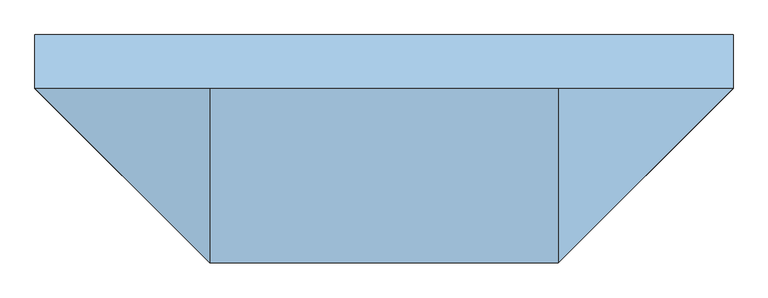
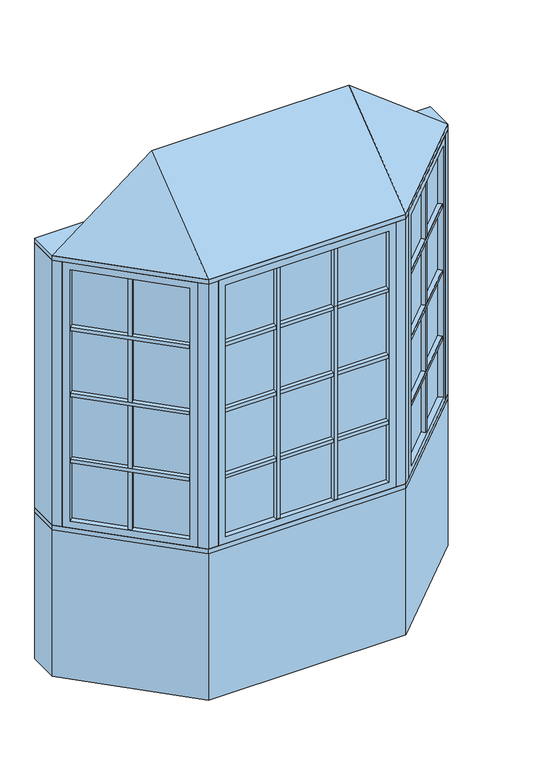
"""IFC4 building model written with IfcOpenShell, lengths in millimetres: window geometry, Pollard_Windows_Tudor Casement Bows and Bays : AML-BAY 45 AFR0514-10-600_GC."""

from ifc_helpers import new_model, si_unit, frame, origin, origin_with_axes, place, context, project, spatial, polyline, outline, extrude, faceted_brep, source, transform, mapped, element, save


def window_0a0b4244(model_context):
    return source(origin(), model_context, "Body", "SolidModel", [
        extrude(outline(polyline([(553.0114193, -506.9608753), (537.4550701, -491.4045261), (915.116171, -113.7434252), (930.6725202, -129.2997743), (553.0114193, -506.9608753)])), frame((0.0, 0.0, 1490.998), z_axis=(0.0, 0.0, 1.0), x_axis=(1.0, 0.0, 0.0)), (0.0, 0.0, 1.0), 18.0),
        extrude(outline(polyline([(533.8629677, -487.8124236), (518.3066185, -472.2560744), (895.9677194, -94.5949735), (911.5240686, -110.1513227), (533.8629677, -487.8124236)])), frame((0.0, 0.0, 1490.998), z_axis=(0.0, 0.0, 1.0), x_axis=(1.0, 0.0, 0.0)), (0.0, 0.0, 1.0), 18.0),
        extrude(outline(polyline([(553.0114193, -506.9608753), (537.4550701, -491.4045261), (915.116171, -113.7434252), (930.6725202, -129.2997743), (553.0114193, -506.9608753)])), frame((0.0, 0.0, 1140.998), z_axis=(0.0, 0.0, 1.0), x_axis=(1.0, 0.0, 0.0)), (0.0, 0.0, 1.0), 18.0),
        extrude(outline(polyline([(533.8629677, -487.8124236), (518.3066185, -472.2560744), (895.9677194, -94.5949735), (911.5240686, -110.1513227), (533.8629677, -487.8124236)])), frame((0.0, 0.0, 1140.998), z_axis=(0.0, 0.0, 1.0), x_axis=(1.0, 0.0, 0.0)), (0.0, 0.0, 1.0), 18.0),
        extrude(outline(polyline([(553.0114193, -506.9608753), (537.4550701, -491.4045261), (915.116171, -113.7434252), (930.6725202, -129.2997743), (553.0114193, -506.9608753)])), frame((0.0, 0.0, 1490.998), z_axis=(0.0, 0.0, 1.0), x_axis=(1.0, 0.0, 0.0)), (0.0, 0.0, 1.0), 18.0),
        extrude(outline(polyline([(533.8629677, -487.8124236), (518.3066185, -472.2560744), (895.9677194, -94.5949735), (911.5240686, -110.1513227), (533.8629677, -487.8124236)])), frame((0.0, 0.0, 1490.998), z_axis=(0.0, 0.0, 1.0), x_axis=(1.0, 0.0, 0.0)), (0.0, 0.0, 1.0), 18.0),
        extrude(outline(polyline([(553.0114193, -506.9608753), (537.4550701, -491.4045261), (915.116171, -113.7434252), (930.6725202, -129.2997743), (553.0114193, -506.9608753)])), frame((0.0, 0.0, 1490.998), z_axis=(0.0, 0.0, 1.0), x_axis=(1.0, 0.0, 0.0)), (0.0, 0.0, 1.0), 18.0),
        extrude(outline(polyline([(533.8629677, -487.8124236), (518.3066185, -472.2560744), (895.9677194, -94.5949735), (911.5240686, -110.1513227), (533.8629677, -487.8124236)])), frame((0.0, 0.0, 1490.998), z_axis=(0.0, 0.0, 1.0), x_axis=(1.0, 0.0, 0.0)), (0.0, 0.0, 1.0), 18.0),
        extrude(outline(polyline([(553.0114193, -506.9608753), (537.4550701, -491.4045261), (915.116171, -113.7434252), (930.6725202, -129.2997743), (553.0114193, -506.9608753)])), frame((0.0, 0.0, 1840.998), z_axis=(0.0, 0.0, 1.0), x_axis=(1.0, 0.0, 0.0)), (0.0, 0.0, 1.0), 18.0),
        extrude(outline(polyline([(533.8629677, -487.8124236), (518.3066185, -472.2560744), (895.9677194, -94.5949735), (911.5240686, -110.1513227), (533.8629677, -487.8124236)])), frame((0.0, 0.0, 1840.998), z_axis=(0.0, 0.0, 1.0), x_axis=(1.0, 0.0, 0.0)), (0.0, 0.0, 1.0), 18.0),
        extrude(outline(polyline([(732.6495816, -296.2100146), (748.2059308, -311.7663638), (735.4780087, -324.4942858), (719.9216595, -308.9379366), (732.6495816, -296.2100146)])), frame((0.0, 0.0, 835.8628), z_axis=(0.0, 0.0, 1.0), x_axis=(1.0, 0.0, 0.0)), (0.0, 0.0, 1.0), 1328.2704),
        extrude(outline(polyline([(729.0574791, -292.6179121), (716.3295571, -305.3458342), (700.7732079, -289.789485), (713.50113, -277.0615629), (729.0574791, -292.6179121)])), frame((0.0, 0.0, 835.8628), z_axis=(0.0, 0.0, 1.0), x_axis=(1.0, 0.0, 0.0)), (0.0, 0.0, 1.0), 1328.2704),
        extrude(outline(polyline([(924.0964271, -104.763169), (528.474814, -500.3847822), (524.8827115, -496.7926797), (920.5043247, -101.1710666), (924.0964271, -104.763169)])), frame((0.0, 0.0, 823.1628), z_axis=(0.0, 0.0, 1.0), x_axis=(1.0, 0.0, 0.0)), (0.0, 0.0, 1.0), 1353.6704),
        faceted_brep([(915.116171, -113.7434252, 835.8628), (933.0766833, -131.7039374, 835.8628), (933.0766833, -131.7039374, 2164.1332), (915.116171, -113.7434252, 2164.1332), (920.5043247, -101.1710666, 823.1628), (924.0964271, -104.763169, 823.1628), (924.0964271, -104.763169, 2176.8332), (920.5043247, -101.1710666, 2176.8332), (893.5635563, -92.1908105, 835.8628), (911.5240686, -110.1513227, 835.8628), (911.5240686, -110.1513227, 2164.1332), (893.5635563, -92.1908105, 2164.1332), (958.4369265, -106.3436941, 799.998), (918.9237996, -66.8305672, 799.998), (918.9237996, -66.8305672, 2199.998), (958.4369265, -106.3436941, 2199.998), (555.4155823, -509.3650383, 2164.1332), (537.4550701, -491.4045261, 2164.1332), (528.474814, -500.3847822, 2176.8332), (524.8827115, -496.7926797, 2176.8332), (533.8629677, -487.8124236, 2164.1332), (515.9024554, -469.8519114, 2164.1332), (490.5422121, -495.2121547, 2199.998), (530.0553391, -534.7252816, 2199.998), (555.4155823, -509.3650383, 835.8628), (537.4550701, -491.4045261, 835.8628), (528.474814, -500.3847822, 823.1628), (524.8827115, -496.7926797, 823.1628), (533.8629677, -487.8124236, 835.8628), (515.9024554, -469.8519114, 835.8628), (490.5422121, -495.2121547, 799.998), (530.0553391, -534.7252816, 799.998)], [[[0, 1, 2, 3]], [[4, 5, 6, 7]], [[8, 9, 10, 11]], [[12, 13, 14, 15]], [[3, 2, 16, 17]], [[7, 6, 18, 19]], [[11, 10, 20, 21]], [[15, 14, 22, 23]], [[17, 16, 24, 25]], [[19, 18, 26, 27]], [[21, 20, 28, 29]], [[23, 22, 30, 31]], [[25, 24, 1, 0]], [[5, 26, 18, 6], [3, 17, 25, 0]], [[27, 26, 5, 4]], [[7, 19, 27, 4], [9, 28, 20, 10]], [[29, 28, 9, 8]], [[13, 30, 22, 14], [11, 21, 29, 8]], [[31, 30, 13, 12]], [[15, 23, 31, 12], [1, 24, 16, 2]]]),
        extrude(outline(polyline([(152.5118667, -544.6806207), (152.5118667, -566.6806207), (134.5118667, -566.6806207), (134.5118667, -544.6806207), (152.5118667, -544.6806207)])), frame((0.0, 0.0, 835.8628), z_axis=(0.0, 0.0, 1.0), x_axis=(1.0, 0.0, 0.0)), (0.0, 0.0, 1.0), 1328.2704),
        extrude(outline(polyline([(152.5118667, -539.6006207), (134.5118667, -539.6006207), (134.5118667, -517.6006207), (152.5118667, -517.6006207), (152.5118667, -539.6006207)])), frame((0.0, 0.0, 835.8628), z_axis=(0.0, 0.0, 1.0), x_axis=(1.0, 0.0, 0.0)), (0.0, 0.0, 1.0), 1328.2704),
        extrude(outline(polyline([(-134.5118667, -544.6806207), (-134.5118667, -566.6806207), (-152.5118667, -566.6806207), (-152.5118667, -544.6806207), (-134.5118667, -544.6806207)])), frame((0.0, 0.0, 835.8628), z_axis=(0.0, 0.0, 1.0), x_axis=(1.0, 0.0, 0.0)), (0.0, 0.0, 1.0), 1328.2704),
        extrude(outline(polyline([(-134.5118667, -539.6006207), (-152.5118667, -539.6006207), (-152.5118667, -517.6006207), (-134.5118667, -517.6006207), (-134.5118667, -539.6006207)])), frame((0.0, 0.0, 835.8628), z_axis=(0.0, 0.0, 1.0), x_axis=(1.0, 0.0, 0.0)), (0.0, 0.0, 1.0), 1328.2704),
        extrude(outline(polyline([(-408.8352, -566.6806207), (-408.8352, -544.6806207), (408.8352, -544.6806207), (408.8352, -566.6806207), (-408.8352, -566.6806207)])), frame((0.0, 0.0, 1140.998), z_axis=(0.0, 0.0, 1.0), x_axis=(1.0, 0.0, 0.0)), (0.0, 0.0, 1.0), 18.0),
        extrude(outline(polyline([(-408.8352, -539.6006207), (-408.8352, -517.6006207), (408.8352, -517.6006207), (408.8352, -539.6006207), (-408.8352, -539.6006207)])), frame((0.0, 0.0, 1140.998), z_axis=(0.0, 0.0, 1.0), x_axis=(1.0, 0.0, 0.0)), (0.0, 0.0, 1.0), 18.0),
        extrude(outline(polyline([(-408.8352, -566.6806207), (-408.8352, -544.6806207), (408.8352, -544.6806207), (408.8352, -566.6806207), (-408.8352, -566.6806207)])), frame((0.0, 0.0, 1490.998), z_axis=(0.0, 0.0, 1.0), x_axis=(1.0, 0.0, 0.0)), (0.0, 0.0, 1.0), 18.0),
        extrude(outline(polyline([(-408.8352, -539.6006207), (-408.8352, -517.6006207), (408.8352, -517.6006207), (408.8352, -539.6006207), (-408.8352, -539.6006207)])), frame((0.0, 0.0, 1490.998), z_axis=(0.0, 0.0, 1.0), x_axis=(1.0, 0.0, 0.0)), (0.0, 0.0, 1.0), 18.0),
        extrude(outline(polyline([(-408.8352, -566.6806207), (-408.8352, -544.6806207), (408.8352, -544.6806207), (408.8352, -566.6806207), (-408.8352, -566.6806207)])), frame((0.0, 0.0, 1490.998), z_axis=(0.0, 0.0, 1.0), x_axis=(1.0, 0.0, 0.0)), (0.0, 0.0, 1.0), 18.0),
        extrude(outline(polyline([(-408.8352, -539.6006207), (-408.8352, -517.6006207), (408.8352, -517.6006207), (408.8352, -539.6006207), (-408.8352, -539.6006207)])), frame((0.0, 0.0, 1490.998), z_axis=(0.0, 0.0, 1.0), x_axis=(1.0, 0.0, 0.0)), (0.0, 0.0, 1.0), 18.0),
        extrude(outline(polyline([(-408.8352, -566.6806207), (-408.8352, -544.6806207), (408.8352, -544.6806207), (408.8352, -566.6806207), (-408.8352, -566.6806207)])), frame((0.0, 0.0, 1490.998), z_axis=(0.0, 0.0, 1.0), x_axis=(1.0, 0.0, 0.0)), (0.0, 0.0, 1.0), 18.0),
        extrude(outline(polyline([(-408.8352, -539.6006207), (-408.8352, -517.6006207), (408.8352, -517.6006207), (408.8352, -539.6006207), (-408.8352, -539.6006207)])), frame((0.0, 0.0, 1490.998), z_axis=(0.0, 0.0, 1.0), x_axis=(1.0, 0.0, 0.0)), (0.0, 0.0, 1.0), 18.0),
        extrude(outline(polyline([(-930.6725202, -129.2997743), (-915.116171, -113.7434252), (-537.4550701, -491.4045261), (-553.0114193, -506.9608753), (-930.6725202, -129.2997743)])), frame((0.0, 0.0, 1140.998), z_axis=(0.0, 0.0, 1.0), x_axis=(1.0, 0.0, 0.0)), (0.0, 0.0, 1.0), 18.0),
        extrude(outline(polyline([(-911.5240686, -110.1513227), (-895.9677194, -94.5949735), (-518.3066185, -472.2560744), (-533.8629677, -487.8124236), (-911.5240686, -110.1513227)])), frame((0.0, 0.0, 1140.998), z_axis=(0.0, 0.0, 1.0), x_axis=(1.0, 0.0, 0.0)), (0.0, 0.0, 1.0), 18.0),
        extrude(outline(polyline([(-930.6725202, -129.2997743), (-915.116171, -113.7434252), (-537.4550701, -491.4045261), (-553.0114193, -506.9608753), (-930.6725202, -129.2997743)])), frame((0.0, 0.0, 1490.998), z_axis=(0.0, 0.0, 1.0), x_axis=(1.0, 0.0, 0.0)), (0.0, 0.0, 1.0), 18.0),
        extrude(outline(polyline([(-911.5240686, -110.1513227), (-895.9677194, -94.5949735), (-518.3066185, -472.2560744), (-533.8629677, -487.8124236), (-911.5240686, -110.1513227)])), frame((0.0, 0.0, 1490.998), z_axis=(0.0, 0.0, 1.0), x_axis=(1.0, 0.0, 0.0)), (0.0, 0.0, 1.0), 18.0),
        extrude(outline(polyline([(-930.6725202, -129.2997743), (-915.116171, -113.7434252), (-537.4550701, -491.4045261), (-553.0114193, -506.9608753), (-930.6725202, -129.2997743)])), frame((0.0, 0.0, 1490.998), z_axis=(0.0, 0.0, 1.0), x_axis=(1.0, 0.0, 0.0)), (0.0, 0.0, 1.0), 18.0),
        extrude(outline(polyline([(-911.5240686, -110.1513227), (-895.9677194, -94.5949735), (-518.3066185, -472.2560744), (-533.8629677, -487.8124236), (-911.5240686, -110.1513227)])), frame((0.0, 0.0, 1490.998), z_axis=(0.0, 0.0, 1.0), x_axis=(1.0, 0.0, 0.0)), (0.0, 0.0, 1.0), 18.0),
        extrude(outline(polyline([(-930.6725202, -129.2997743), (-915.116171, -113.7434252), (-537.4550701, -491.4045261), (-553.0114193, -506.9608753), (-930.6725202, -129.2997743)])), frame((0.0, 0.0, 1490.998), z_axis=(0.0, 0.0, 1.0), x_axis=(1.0, 0.0, 0.0)), (0.0, 0.0, 1.0), 18.0),
        extrude(outline(polyline([(-911.5240686, -110.1513227), (-895.9677194, -94.5949735), (-518.3066185, -472.2560744), (-533.8629677, -487.8124236), (-911.5240686, -110.1513227)])), frame((0.0, 0.0, 1490.998), z_axis=(0.0, 0.0, 1.0), x_axis=(1.0, 0.0, 0.0)), (0.0, 0.0, 1.0), 18.0),
        extrude(outline(polyline([(-930.6725202, -129.2997743), (-915.116171, -113.7434252), (-537.4550701, -491.4045261), (-553.0114193, -506.9608753), (-930.6725202, -129.2997743)])), frame((0.0, 0.0, 1840.998), z_axis=(0.0, 0.0, 1.0), x_axis=(1.0, 0.0, 0.0)), (0.0, 0.0, 1.0), 18.0),
        extrude(outline(polyline([(-911.5240686, -110.1513227), (-895.9677194, -94.5949735), (-518.3066185, -472.2560744), (-533.8629677, -487.8124236), (-911.5240686, -110.1513227)])), frame((0.0, 0.0, 1840.998), z_axis=(0.0, 0.0, 1.0), x_axis=(1.0, 0.0, 0.0)), (0.0, 0.0, 1.0), 18.0),
        extrude(outline(polyline([(-408.8352, -566.6806207), (-408.8352, -544.6806207), (408.8352, -544.6806207), (408.8352, -566.6806207), (-408.8352, -566.6806207)])), frame((0.0, 0.0, 1840.998), z_axis=(0.0, 0.0, 1.0), x_axis=(1.0, 0.0, 0.0)), (0.0, 0.0, 1.0), 18.0),
        extrude(outline(polyline([(-408.8352, -539.6006207), (-408.8352, -517.6006207), (408.8352, -517.6006207), (408.8352, -539.6006207), (-408.8352, -539.6006207)])), frame((0.0, 0.0, 1840.998), z_axis=(0.0, 0.0, 1.0), x_axis=(1.0, 0.0, 0.0)), (0.0, 0.0, 1.0), 18.0),
        extrude(outline(polyline([(-719.9216595, -308.9379366), (-735.4780087, -324.4942858), (-748.2059308, -311.7663638), (-732.6495816, -296.2100146), (-719.9216595, -308.9379366)])), frame((0.0, 0.0, 835.8628), z_axis=(0.0, 0.0, 1.0), x_axis=(1.0, 0.0, 0.0)), (0.0, 0.0, 1.0), 1328.2704),
        extrude(outline(polyline([(-716.3295571, -305.3458342), (-729.0574791, -292.6179121), (-713.50113, -277.0615629), (-700.7732079, -289.789485), (-716.3295571, -305.3458342)])), frame((0.0, 0.0, 835.8628), z_axis=(0.0, 0.0, 1.0), x_axis=(1.0, 0.0, 0.0)), (0.0, 0.0, 1.0), 1328.2704),
        extrude(outline(polyline([(-528.474814, -500.3847822), (-924.0964271, -104.763169), (-920.5043247, -101.1710666), (-524.8827115, -496.7926797), (-528.474814, -500.3847822)])), frame((0.0, 0.0, 823.1628), z_axis=(0.0, 0.0, 1.0), x_axis=(1.0, 0.0, 0.0)), (0.0, 0.0, 1.0), 1353.6704),
        faceted_brep([(-533.8629677, -487.8124236, 2164.1332), (-515.9024554, -469.8519114, 2164.1332), (-515.9024554, -469.8519114, 835.8628), (-533.8629677, -487.8124236, 835.8628), (-528.474814, -500.3847822, 2176.8332), (-524.8827115, -496.7926797, 2176.8332), (-524.8827115, -496.7926797, 823.1628), (-528.474814, -500.3847822, 823.1628), (-555.4155823, -509.3650383, 2164.1332), (-537.4550701, -491.4045261, 2164.1332), (-537.4550701, -491.4045261, 835.8628), (-555.4155823, -509.3650383, 835.8628), (-490.5422121, -495.2121547, 2199.998), (-530.0553391, -534.7252816, 2199.998), (-530.0553391, -534.7252816, 799.998), (-490.5422121, -495.2121547, 799.998), (-893.5635563, -92.1908105, 835.8628), (-911.5240686, -110.1513227, 835.8628), (-920.5043247, -101.1710666, 823.1628), (-924.0964271, -104.763169, 823.1628), (-915.116171, -113.7434252, 835.8628), (-933.0766833, -131.7039374, 835.8628), (-958.4369265, -106.3436941, 799.998), (-918.9237996, -66.8305672, 799.998), (-893.5635563, -92.1908105, 2164.1332), (-911.5240686, -110.1513227, 2164.1332), (-920.5043247, -101.1710666, 2176.8332), (-924.0964271, -104.763169, 2176.8332), (-915.116171, -113.7434252, 2164.1332), (-933.0766833, -131.7039374, 2164.1332), (-958.4369265, -106.3436941, 2199.998), (-918.9237996, -66.8305672, 2199.998)], [[[0, 1, 2, 3]], [[4, 5, 6, 7]], [[8, 9, 10, 11]], [[12, 13, 14, 15]], [[3, 2, 16, 17]], [[7, 6, 18, 19]], [[11, 10, 20, 21]], [[15, 14, 22, 23]], [[17, 16, 24, 25]], [[19, 18, 26, 27]], [[21, 20, 28, 29]], [[23, 22, 30, 31]], [[15, 23, 31, 12], [1, 24, 16, 2]], [[25, 24, 1, 0]], [[5, 26, 18, 6], [3, 17, 25, 0]], [[27, 26, 5, 4]], [[7, 19, 27, 4], [9, 28, 20, 10]], [[29, 28, 9, 8]], [[13, 30, 22, 14], [11, 21, 29, 8]], [[31, 30, 13, 12]]]),
        extrude(outline(polyline([(421.5352, -544.6806207), (-421.5352, -544.6806207), (-421.5352, -539.6006207), (421.5352, -539.6006207), (421.5352, -544.6806207)])), frame((0.0, 0.0, 823.1628), z_axis=(0.0, 0.0, 1.0), x_axis=(1.0, 0.0, 0.0)), (0.0, 0.0, 1.0), 1353.6704),
        faceted_brep([(408.8352, -544.6806207, 835.8628), (408.8352, -570.0806207, 835.8628), (408.8352, -570.0806207, 2164.1332), (408.8352, -544.6806207, 2164.1332), (421.5352, -539.6006207, 823.1628), (421.5352, -544.6806207, 823.1628), (421.5352, -544.6806207, 2176.8332), (421.5352, -539.6006207, 2176.8332), (408.8352, -514.2006207, 835.8628), (408.8352, -539.6006207, 835.8628), (408.8352, -539.6006207, 2164.1332), (408.8352, -514.2006207, 2164.1332), (444.7, -570.0806207, 799.998), (444.7, -514.2006207, 799.998), (444.7, -514.2006207, 2199.998), (444.7, -570.0806207, 2199.998), (-408.8352, -570.0806207, 2164.1332), (-408.8352, -544.6806207, 2164.1332), (-421.5352, -544.6806207, 2176.8332), (-421.5352, -539.6006207, 2176.8332), (-408.8352, -539.6006207, 2164.1332), (-408.8352, -514.2006207, 2164.1332), (-444.7, -514.2006207, 2199.998), (-444.7, -570.0806207, 2199.998), (-408.8352, -570.0806207, 835.8628), (-408.8352, -544.6806207, 835.8628), (-421.5352, -544.6806207, 823.1628), (-421.5352, -539.6006207, 823.1628), (-408.8352, -539.6006207, 835.8628), (-408.8352, -514.2006207, 835.8628), (-444.7, -514.2006207, 799.998), (-444.7, -570.0806207, 799.998)], [[[0, 1, 2, 3]], [[4, 5, 6, 7]], [[8, 9, 10, 11]], [[12, 13, 14, 15]], [[3, 2, 16, 17]], [[7, 6, 18, 19]], [[11, 10, 20, 21]], [[15, 14, 22, 23]], [[17, 16, 24, 25]], [[19, 18, 26, 27]], [[21, 20, 28, 29]], [[23, 22, 30, 31]], [[15, 23, 31, 12], [1, 24, 16, 2]], [[25, 24, 1, 0]], [[5, 26, 18, 6], [3, 17, 25, 0]], [[27, 26, 5, 4]], [[7, 19, 27, 4], [9, 28, 20, 10]], [[29, 28, 9, 8]], [[13, 30, 22, 14], [11, 21, 29, 8]], [[31, 30, 13, 12]]]),
        faceted_brep([(990.0, -74.7806207, 2225.398), (494.7, -570.0806207, 2225.398), (-494.7, -570.0806207, 2225.398), (-990.0, -74.7806207, 2225.398), (-494.7, -74.7806207, 2606.398), (494.7, -74.7806207, 2606.398)], [[[0, 1, 2, 3]], [[3, 2, 4]], [[2, 1, 5, 4]], [[1, 0, 5]], [[0, 3, 4, 5]]]),
        extrude(outline(polyline([(-990.0, 77.6193793), (990.0, 77.6193793), (990.0, -74.7806207), (494.7, -570.0806207), (-494.7, -570.0806207), (-990.0, -74.7806207), (-990.0, 77.6193793)])), frame((0.0, 0.0, 2199.998), z_axis=(0.0, 0.0, 1.0), x_axis=(1.0, 0.0, 0.0)), (0.0, 0.0, 1.0), 25.4),
        extrude(outline(polyline([(-990.0, -74.7806207), (-990.0, 77.6193793), (-926.8738531, 77.6193793), (-926.8738531, -74.7806207), (-958.4369265, -106.3436941), (-990.0, -74.7806207)])), frame((0.0, 0.0, 799.998), z_axis=(0.0, 0.0, 1.0), x_axis=(1.0, 0.0, 0.0)), (0.0, 0.0, 1.0), 1400.0),
        extrude(outline(polyline([(990.0, 77.6193793), (990.0, -74.7806207), (958.4369265, -106.3436941), (926.8738531, -74.7806207), (926.8738531, 77.6193793), (990.0, 77.6193793)])), frame((0.0, 0.0, 799.998), z_axis=(0.0, 0.0, 1.0), x_axis=(1.0, 0.0, 0.0)), (0.0, 0.0, 1.0), 1400.0),
        extrude(outline(polyline([(494.7, -570.0806207), (444.7, -570.0806207), (444.7, -520.0806207), (473.9893219, -520.0806207), (494.7, -499.3699425), (530.0553391, -534.7252816), (494.7, -570.0806207)])), frame((0.0, 0.0, 799.998), z_axis=(0.0, 0.0, 1.0), x_axis=(1.0, 0.0, 0.0)), (0.0, 0.0, 1.0), 1400.0),
        extrude(outline(polyline([(-494.7, -570.0806207), (-530.0553391, -534.7252816), (-494.7, -499.3699425), (-473.9893219, -520.0806207), (-444.7, -520.0806207), (-444.7, -570.0806207), (-494.7, -570.0806207)])), frame((0.0, 0.0, 799.998), z_axis=(0.0, 0.0, 1.0), x_axis=(1.0, 0.0, 0.0)), (0.0, 0.0, 1.0), 1400.0),
        extrude(outline(polyline([(-494.7, -570.0806207), (-990.0, -74.7806207), (-990.0, 77.6193793), (-926.8738531, 77.6193793), (-431.5738531, -417.6806207), (431.5738531, -417.6806207), (926.8738531, 77.6193793), (990.0, 77.6193793), (990.0, -74.7806207), (494.7, -570.0806207), (-494.7, -570.0806207)])), frame((0.0, 0.0, 774.598), z_axis=(0.0, 0.0, 1.0), x_axis=(1.0, 0.0, 0.0)), (0.0, 0.0, 1.0), 25.4),
        extrude(outline(polyline([(-990.0, -74.7806207), (-990.0, 77.6193793), (-926.8738531, 77.6193793), (-431.5738531, -417.6806207), (431.5738531, -417.6806207), (926.8738531, 77.6193793), (990.0, 77.6193793), (990.0, -74.7806207), (494.7, -570.0806207), (-494.7, -570.0806207), (-990.0, -74.7806207)])), origin_with_axes(), (0.0, 0.0, 1.0), 774.598),
    ])


if __name__ == "__main__":
    model = new_model("IFC4")
    model_context = context("Model", 3, world=origin())
    ifc_project = project(units=[si_unit("LENGTHUNIT", "METRE", prefix="MILLI")], contexts=[model_context])
    site = spatial("IfcSite", under=ifc_project)
    building = spatial("IfcBuilding", under=site)
    placement = place(None, origin())
    window_shape = window_0a0b4244(model_context)
    element("IfcWindow", 1, ObjectType="Pollard_Windows_Tudor Casement Bows and Bays : AML-BAY 45 AFR0514-10-600_GC", at=placement, inside=building, context=model_context, shape_type="MappedRepresentation", body=[
        mapped(window_shape, transform((0.0, 0.0, 0.0), x_axis=(1.0, 0.0, 0.0), y_axis=(0.0, 1.0, 0.0), z_axis=(0.0, 0.0, 1.0))),
    ])
    save(model, "model.ifc")
